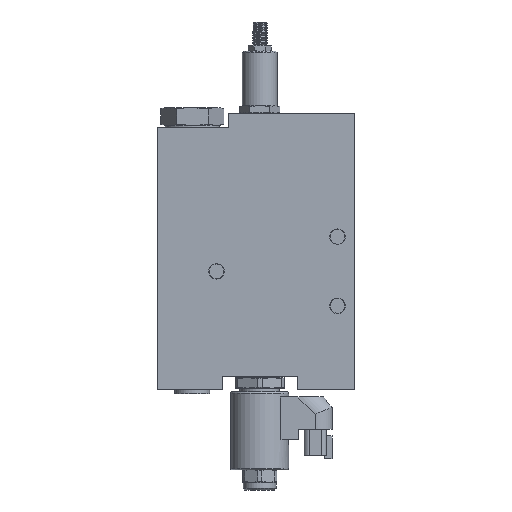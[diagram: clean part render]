
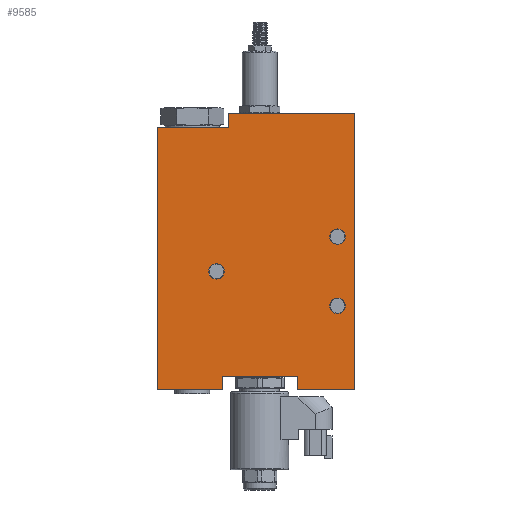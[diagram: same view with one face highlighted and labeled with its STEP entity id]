
A CAD part, left-side view. The second image highlights one B-rep face of the part: STEP entity #9585.
In plain terms, the highlighted planar face has unit normal (-1, 0, 0).
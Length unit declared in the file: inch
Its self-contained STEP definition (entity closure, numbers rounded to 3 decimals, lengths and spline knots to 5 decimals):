
#9358=CARTESIAN_POINT('',(-1.938,0.206,-2.655));
#9359=VERTEX_POINT('',#9358);
#9367=CARTESIAN_POINT('',(-1.938,0.206,-3.0));
#9368=VERTEX_POINT('',#9367);
#9375=CARTESIAN_POINT('',(-1.938,0.206,-2.655));
#9376=DIRECTION('',(0.0,0.0,-1.0));
#9377=VECTOR('',#9376,0.345);
#9378=LINE('',#9375,#9377);
#9379=EDGE_CURVE('',#9359,#9368,#9378,.T.);
#9389=CARTESIAN_POINT('',(-1.938,2.106,-2.655));
#9390=VERTEX_POINT('',#9389);
#9397=CARTESIAN_POINT('',(-1.938,2.106,-3.0));
#9398=VERTEX_POINT('',#9397);
#9399=CARTESIAN_POINT('',(-1.938,2.106,-3.));
#9400=DIRECTION('',(0.0,0.0,1.0));
#9401=VECTOR('',#9400,0.345);
#9402=LINE('',#9399,#9401);
#9403=EDGE_CURVE('',#9398,#9390,#9402,.T.);
#9422=CARTESIAN_POINT('',(-1.938,2.106,-2.655));
#9423=DIRECTION('',(0.0,-1.0,0.0));
#9424=VECTOR('',#9423,1.9);
#9425=LINE('',#9422,#9424);
#9426=EDGE_CURVE('',#9390,#9359,#9425,.T.);
#9450=CARTESIAN_POINT('',(-1.938,-1.25,-3.));
#9451=VERTEX_POINT('',#9450);
#9458=CARTESIAN_POINT('',(-1.938,-1.25,-3.));
#9459=DIRECTION('',(0.0,1.0,0.0));
#9460=VECTOR('',#9459,1.456);
#9461=LINE('',#9458,#9460);
#9462=EDGE_CURVE('',#9451,#9368,#9461,.T.);
#9473=CARTESIAN_POINT('',(-1.938,3.75,-3.0));
#9474=VERTEX_POINT('',#9473);
#9475=CARTESIAN_POINT('',(-1.938,2.106,-3.0));
#9476=DIRECTION('',(0.0,1.0,0.0));
#9477=VECTOR('',#9476,1.644);
#9478=LINE('',#9475,#9477);
#9479=EDGE_CURVE('',#9398,#9474,#9478,.T.);
#9502=CARTESIAN_POINT('',(-1.938,1.25,0.5));
#9503=DIRECTION('',(1.0,0.0,0.0));
#9504=DIRECTION('',(0.0,0.0,-1.0));
#9505=AXIS2_PLACEMENT_3D('',#9502,#9503,#9504);
#9506=PLANE('',#9505);
#9507=ORIENTED_EDGE('',*,*,#9403,.T.);
#9508=ORIENTED_EDGE('',*,*,#9426,.T.);
#9509=ORIENTED_EDGE('',*,*,#9379,.T.);
#9510=ORIENTED_EDGE('',*,*,#9462,.F.);
#9511=CARTESIAN_POINT('',(-1.938,-1.25,4.0));
#9512=VERTEX_POINT('',#9511);
#9513=CARTESIAN_POINT('',(-1.938,-1.25,4.0));
#9514=DIRECTION('',(0.0,0.0,-1.0));
#9515=VECTOR('',#9514,7.);
#9516=LINE('',#9513,#9515);
#9517=EDGE_CURVE('',#9512,#9451,#9516,.T.);
#9518=ORIENTED_EDGE('',*,*,#9517,.F.);
#9519=CARTESIAN_POINT('',(-1.938,1.938,4.0));
#9520=VERTEX_POINT('',#9519);
#9521=CARTESIAN_POINT('',(-1.938,1.938,4.0));
#9522=DIRECTION('',(0.0,-1.0,0.0));
#9523=VECTOR('',#9522,3.188);
#9524=LINE('',#9521,#9523);
#9525=EDGE_CURVE('',#9520,#9512,#9524,.T.);
#9526=ORIENTED_EDGE('',*,*,#9525,.F.);
#9527=CARTESIAN_POINT('',(-1.938,1.938,3.625));
#9528=VERTEX_POINT('',#9527);
#9529=CARTESIAN_POINT('',(-1.938,1.938,4.0));
#9530=DIRECTION('',(0.0,0.0,-1.0));
#9531=VECTOR('',#9530,0.375);
#9532=LINE('',#9529,#9531);
#9533=EDGE_CURVE('',#9520,#9528,#9532,.T.);
#9534=ORIENTED_EDGE('',*,*,#9533,.T.);
#9535=CARTESIAN_POINT('',(-1.938,3.75,3.625));
#9536=VERTEX_POINT('',#9535);
#9537=CARTESIAN_POINT('',(-1.938,1.938,3.625));
#9538=DIRECTION('',(0.0,1.0,0.0));
#9539=VECTOR('',#9538,1.812);
#9540=LINE('',#9537,#9539);
#9541=EDGE_CURVE('',#9528,#9536,#9540,.T.);
#9542=ORIENTED_EDGE('',*,*,#9541,.T.);
#9543=CARTESIAN_POINT('',(-1.938,3.75,-3.));
#9544=DIRECTION('',(0.0,0.0,1.0));
#9545=VECTOR('',#9544,6.625);
#9546=LINE('',#9543,#9545);
#9547=EDGE_CURVE('',#9474,#9536,#9546,.T.);
#9548=ORIENTED_EDGE('',*,*,#9547,.F.);
#9549=ORIENTED_EDGE('',*,*,#9479,.F.);
#9550=EDGE_LOOP('',(#9507,#9508,#9509,#9510,#9518,#9526,#9534,#9542,#9548,#9549));
#9551=FACE_OUTER_BOUND('',#9550,.T.);
#9552=CARTESIAN_POINT('',(-1.938,-0.812,-1.0705));
#9553=VERTEX_POINT('',#9552);
#9554=CARTESIAN_POINT('',(-1.938,-0.812,-0.875));
#9555=DIRECTION('',(1.0,0.0,0.0));
#9556=DIRECTION('',(0.0,0.0,-1.0));
#9557=AXIS2_PLACEMENT_3D('',#9554,#9555,#9556);
#9558=CIRCLE('',#9557,0.1955);
#9559=EDGE_CURVE('',#9553,#9553,#9558,.T.);
#9560=ORIENTED_EDGE('',*,*,#9559,.T.);
#9561=EDGE_LOOP('',(#9560));
#9562=FACE_BOUND('',#9561,.T.);
#9563=CARTESIAN_POINT('',(-1.938,-0.812,0.6795));
#9564=VERTEX_POINT('',#9563);
#9565=CARTESIAN_POINT('',(-1.938,-0.812,0.875));
#9566=DIRECTION('',(1.0,0.0,0.0));
#9567=DIRECTION('',(0.0,0.0,-1.0));
#9568=AXIS2_PLACEMENT_3D('',#9565,#9566,#9567);
#9569=CIRCLE('',#9568,0.1955);
#9570=EDGE_CURVE('',#9564,#9564,#9569,.T.);
#9571=ORIENTED_EDGE('',*,*,#9570,.T.);
#9572=EDGE_LOOP('',(#9571));
#9573=FACE_BOUND('',#9572,.T.);
#9574=CARTESIAN_POINT('',(-1.938,2.25,-0.1955));
#9575=VERTEX_POINT('',#9574);
#9576=CARTESIAN_POINT('',(-1.938,2.25,0.));
#9577=DIRECTION('',(1.0,0.0,0.0));
#9578=DIRECTION('',(0.0,0.0,-1.0));
#9579=AXIS2_PLACEMENT_3D('',#9576,#9577,#9578);
#9580=CIRCLE('',#9579,0.1955);
#9581=EDGE_CURVE('',#9575,#9575,#9580,.T.);
#9582=ORIENTED_EDGE('',*,*,#9581,.T.);
#9583=EDGE_LOOP('',(#9582));
#9584=FACE_BOUND('',#9583,.T.);
#9585=ADVANCED_FACE('',(#9551,#9562,#9573,#9584),#9506,.F.);
